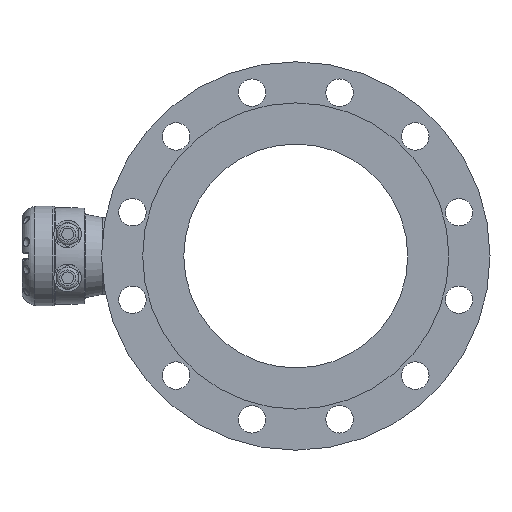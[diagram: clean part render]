
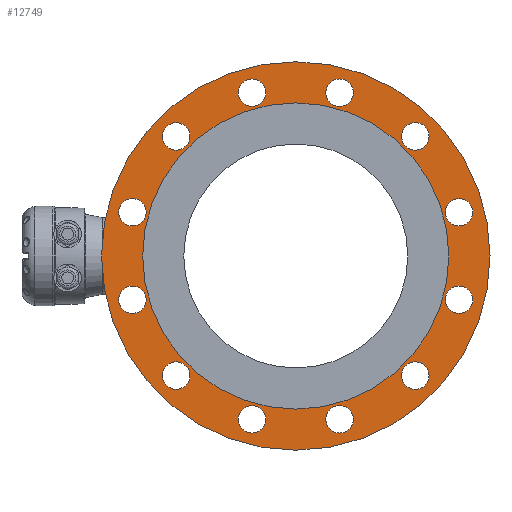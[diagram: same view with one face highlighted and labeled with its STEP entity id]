
A CAD part, left-side view. The second image highlights one B-rep face of the part: STEP entity #12749.
In plain terms, the highlighted planar face has unit normal (-1, 0, 0).
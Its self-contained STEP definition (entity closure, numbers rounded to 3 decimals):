
#60 = EDGE_CURVE ( 'NONE', #6598, #6598, #14289, .T. ) ;
#61 = EDGE_CURVE ( 'NONE', #6600, #6600, #14290, .T. ) ;
#83 = EDGE_CURVE ( 'NONE', #6637, #6637, #14312, .T. ) ;
#85 = EDGE_CURVE ( 'NONE', #6641, #6641, #3083, .T. ) ;
#99 = EDGE_CURVE ( 'NONE', #6659, #6659, #3100, .T. ) ;
#104 = EDGE_CURVE ( 'NONE', #6667, #6667, #3105, .T. ) ;
#111 = EDGE_CURVE ( 'NONE', #6679, #6679, #3112, .T. ) ;
#112 = EDGE_CURVE ( 'NONE', #6681, #6681, #3113, .T. ) ;
#113 = EDGE_CURVE ( 'NONE', #6684, #6684, #3115, .T. ) ;
#119 = EDGE_CURVE ( 'NONE', #2093, #2093, #3121, .T. ) ;
#120 = EDGE_CURVE ( 'NONE', #12383, #12383, #3122, .T. ) ;
#121 = EDGE_CURVE ( 'NONE', #12386, #12386, #3123, .T. ) ;
#126 = EDGE_CURVE ( 'NONE', #12394, #12394, #3130, .T. ) ;
#142 = EDGE_CURVE ( 'NONE', #12406, #12406, #3153, .T. ) ;
#216 = CARTESIAN_POINT ( 'NONE',  ( -189.805, -152.135, 168.154 ) ) ;
#218 = DIRECTION ( 'NONE',  ( -1., 0., 0. ) ) ;
#219 = CARTESIAN_POINT ( 'NONE',  ( -189.805, -378.713, 37.339 ) ) ;
#220 = DIRECTION ( 'NONE',  ( 0., 0., 1. ) ) ;
#221 = CARTESIAN_POINT ( 'NONE',  ( -189.805, -152.135, -189.239 ) ) ;
#253 = DIRECTION ( 'NONE',  ( -1., 0., 0. ) ) ;
#313 = DIRECTION ( 'NONE',  ( -1., 0., 0. ) ) ;
#340 = DIRECTION ( 'NONE',  ( -1., 0., 0. ) ) ;
#348 = CARTESIAN_POINT ( 'NONE',  ( -189.805, -200.017, -10.543 ) ) ;
#360 = DIRECTION ( 'NONE',  ( -1., 0., 0. ) ) ;
#367 = DIRECTION ( 'NONE',  ( -1., 0., 0. ) ) ;
#386 = DIRECTION ( 'NONE',  ( 0., 0., 1. ) ) ;
#395 = CARTESIAN_POINT ( 'NONE',  ( -189.805, -247.898, 168.154 ) ) ;
#414 = DIRECTION ( 'NONE',  ( 0., 0., 1. ) ) ;
#420 = DIRECTION ( 'NONE',  ( 0., 0., 1. ) ) ;
#517 = CARTESIAN_POINT ( 'NONE',  ( -189.805, -21.321, 37.339 ) ) ;
#652 = DIRECTION ( 'NONE',  ( 0., 0., 1. ) ) ;
#680 = DIRECTION ( 'NONE',  ( 1., 0., 0. ) ) ;
#820 = CARTESIAN_POINT ( 'NONE',  ( -189.805, -378.713, -58.424 ) ) ;
#924 = CARTESIAN_POINT ( 'NONE',  ( -189.805, -330.832, -141.358 ) ) ;
#927 = DIRECTION ( 'NONE',  ( -1., 0., 0. ) ) ;
#934 = DIRECTION ( 'NONE',  ( 0., 0., 1. ) ) ;
#962 = DIRECTION ( 'NONE',  ( -1., 0., 0. ) ) ;
#968 = DIRECTION ( 'NONE',  ( 0., 0., 1. ) ) ;
#985 = DIRECTION ( 'NONE',  ( 1., 0., 0. ) ) ;
#992 = DIRECTION ( 'NONE',  ( -1., 0., 0. ) ) ;
#1006 = DIRECTION ( 'NONE',  ( 0., 0., -1. ) ) ;
#1020 = DIRECTION ( 'NONE',  ( 0., 0., 1. ) ) ;
#1039 = CARTESIAN_POINT ( 'NONE',  ( -189.805, -21.321, -58.424 ) ) ;
#1041 = DIRECTION ( 'NONE',  ( 0., 0., 1. ) ) ;
#1128 = DIRECTION ( 'NONE',  ( 0., 0., 1. ) ) ;
#1174 = DIRECTION ( 'NONE',  ( -1., 0., 0. ) ) ;
#1193 = DIRECTION ( 'NONE',  ( 0., 0., 1. ) ) ;
#1207 = CARTESIAN_POINT ( 'NONE',  ( -189.805, -69.202, -141.358 ) ) ;
#1479 = CARTESIAN_POINT ( 'NONE',  ( -189.805, -69.202, 120.272 ) ) ;
#1575 = CARTESIAN_POINT ( 'NONE',  ( -189.805, -247.898, -189.239 ) ) ;
#1585 = DIRECTION ( 'NONE',  ( 0., 0., -1. ) ) ;
#1710 = DIRECTION ( 'NONE',  ( -1., 0., 0. ) ) ;
#1807 = CARTESIAN_POINT ( 'NONE',  ( -189.805, -330.832, 120.272 ) ) ;
#1867 = DIRECTION ( 'NONE',  ( -1., 0., 0. ) ) ;
#1876 = DIRECTION ( 'NONE',  ( 0., 0., 1. ) ) ;
#1922 = CARTESIAN_POINT ( 'NONE',  ( -189.805, -200.017, -10.543 ) ) ;
#2093 = VERTEX_POINT ( 'NONE', #2095 ) ;
#2095 = CARTESIAN_POINT ( 'NONE',  ( -189.805, -69.202, -126.358 ) ) ;
#3083 = CIRCLE ( 'NONE', #4424, 15. ) ;
#3100 = CIRCLE ( 'NONE', #4435, 15. ) ;
#3105 = CIRCLE ( 'NONE', #4414, 212.5 ) ;
#3112 = CIRCLE ( 'NONE', #4445, 15. ) ;
#3113 = CIRCLE ( 'NONE', #4446, 15. ) ;
#3115 = CIRCLE ( 'NONE', #4447, 15. ) ;
#3121 = CIRCLE ( 'NONE', #4452, 15. ) ;
#3122 = CIRCLE ( 'NONE', #4453, 15. ) ;
#3123 = CIRCLE ( 'NONE', #4454, 15. ) ;
#3130 = CIRCLE ( 'NONE', #4458, 15. ) ;
#3153 = CIRCLE ( 'NONE', #4461, 15. ) ;
#4397 = AXIS2_PLACEMENT_3D ( 'NONE', #1039, #313, #652 ) ;
#4404 = AXIS2_PLACEMENT_3D ( 'NONE', #1575, #1710, #1041 ) ;
#4414 = AXIS2_PLACEMENT_3D ( 'NONE', #1922, #680, #1585 ) ;
#4422 = AXIS2_PLACEMENT_3D ( 'NONE', #348, #985, #1006 ) ;
#4424 = AXIS2_PLACEMENT_3D ( 'NONE', #820, #1174, #1193 ) ;
#4435 = AXIS2_PLACEMENT_3D ( 'NONE', #1807, #1867, #1876 ) ;
#4445 = AXIS2_PLACEMENT_3D ( 'NONE', #219, #927, #934 ) ;
#4446 = AXIS2_PLACEMENT_3D ( 'NONE', #221, #962, #968 ) ;
#4447 = AXIS2_PLACEMENT_3D ( 'NONE', #924, #992, #1020 ) ;
#4452 = AXIS2_PLACEMENT_3D ( 'NONE', #1207, #360, #414 ) ;
#4453 = AXIS2_PLACEMENT_3D ( 'NONE', #1479, #367, #386 ) ;
#4454 = AXIS2_PLACEMENT_3D ( 'NONE', #517, #340, #420 ) ;
#4458 = AXIS2_PLACEMENT_3D ( 'NONE', #216, #253, #220 ) ;
#4461 = AXIS2_PLACEMENT_3D ( 'NONE', #395, #218, #1128 ) ;
#5023 = AXIS2_PLACEMENT_3D ( 'NONE', #9508, #9509, #9510 ) ;
#6598 = VERTEX_POINT ( 'NONE', #6599 ) ;
#6599 = CARTESIAN_POINT ( 'NONE',  ( -189.805, -21.321, -43.424 ) ) ;
#6600 = VERTEX_POINT ( 'NONE', #6601 ) ;
#6601 = CARTESIAN_POINT ( 'NONE',  ( -189.805, -247.898, -174.239 ) ) ;
#6637 = VERTEX_POINT ( 'NONE', #6638 ) ;
#6638 = CARTESIAN_POINT ( 'NONE',  ( -189.805, -200.017, -178.043 ) ) ;
#6641 = VERTEX_POINT ( 'NONE', #6642 ) ;
#6642 = CARTESIAN_POINT ( 'NONE',  ( -189.805, -378.713, -43.424 ) ) ;
#6659 = VERTEX_POINT ( 'NONE', #6660 ) ;
#6660 = CARTESIAN_POINT ( 'NONE',  ( -189.805, -330.832, 135.272 ) ) ;
#6667 = VERTEX_POINT ( 'NONE', #6668 ) ;
#6668 = CARTESIAN_POINT ( 'NONE',  ( -189.805, -200.017, -223.043 ) ) ;
#6679 = VERTEX_POINT ( 'NONE', #6680 ) ;
#6680 = CARTESIAN_POINT ( 'NONE',  ( -189.805, -378.713, 52.339 ) ) ;
#6681 = VERTEX_POINT ( 'NONE', #6683 ) ;
#6683 = CARTESIAN_POINT ( 'NONE',  ( -189.805, -152.135, -174.239 ) ) ;
#6684 = VERTEX_POINT ( 'NONE', #6685 ) ;
#6685 = CARTESIAN_POINT ( 'NONE',  ( -189.805, -330.832, -126.358 ) ) ;
#8222 = FACE_BOUND ( 'NONE', #12253, .T. ) ;
#8223 = FACE_BOUND ( 'NONE', #12202, .T. ) ;
#8227 = FACE_BOUND ( 'NONE', #11943, .T. ) ;
#8228 = FACE_BOUND ( 'NONE', #12255, .T. ) ;
#8229 = FACE_BOUND ( 'NONE', #11942, .T. ) ;
#8230 = FACE_BOUND ( 'NONE', #11955, .T. ) ;
#8231 = FACE_BOUND ( 'NONE', #12983, .T. ) ;
#8232 = FACE_BOUND ( 'NONE', #12254, .T. ) ;
#8233 = FACE_BOUND ( 'NONE', #12252, .T. ) ;
#8234 = FACE_BOUND ( 'NONE', #11976, .T. ) ;
#8235 = FACE_BOUND ( 'NONE', #11983, .T. ) ;
#8236 = FACE_BOUND ( 'NONE', #12256, .T. ) ;
#8237 = FACE_OUTER_BOUND ( 'NONE', #12045, .T. ) ;
#8238 = FACE_BOUND ( 'NONE', #12268, .T. ) ;
#9504 = PLANE ( 'NONE',  #5023 ) ;
#9508 = CARTESIAN_POINT ( 'NONE',  ( -189.805, -200.017, -10.543 ) ) ;
#9509 = DIRECTION ( 'NONE',  ( -1., 0., 0. ) ) ;
#9510 = DIRECTION ( 'NONE',  ( 0., 0., -1. ) ) ;
#11942 = EDGE_LOOP ( 'NONE', ( #14167 ) ) ;
#11943 = EDGE_LOOP ( 'NONE', ( #14170 ) ) ;
#11955 = EDGE_LOOP ( 'NONE', ( #14172 ) ) ;
#11976 = EDGE_LOOP ( 'NONE', ( #14174 ) ) ;
#11983 = EDGE_LOOP ( 'NONE', ( #14176 ) ) ;
#12045 = EDGE_LOOP ( 'NONE', ( #14178 ) ) ;
#12202 = EDGE_LOOP ( 'NONE', ( #14166 ) ) ;
#12252 = EDGE_LOOP ( 'NONE', ( #14169 ) ) ;
#12253 = EDGE_LOOP ( 'NONE', ( #14171 ) ) ;
#12254 = EDGE_LOOP ( 'NONE', ( #14173 ) ) ;
#12255 = EDGE_LOOP ( 'NONE', ( #14175 ) ) ;
#12256 = EDGE_LOOP ( 'NONE', ( #14177 ) ) ;
#12268 = EDGE_LOOP ( 'NONE', ( #14179 ) ) ;
#12383 = VERTEX_POINT ( 'NONE', #12384 ) ;
#12384 = CARTESIAN_POINT ( 'NONE',  ( -189.805, -69.202, 135.272 ) ) ;
#12386 = VERTEX_POINT ( 'NONE', #12387 ) ;
#12387 = CARTESIAN_POINT ( 'NONE',  ( -189.805, -21.321, 52.339 ) ) ;
#12394 = VERTEX_POINT ( 'NONE', #12395 ) ;
#12395 = CARTESIAN_POINT ( 'NONE',  ( -189.805, -152.135, 183.154 ) ) ;
#12406 = VERTEX_POINT ( 'NONE', #12407 ) ;
#12407 = CARTESIAN_POINT ( 'NONE',  ( -189.805, -247.898, 183.154 ) ) ;
#12749 = ADVANCED_FACE ( 'NONE', ( #8223, #8229, #8231, #8233, #8227, #8222, #8230, #8232, #8234, #8228, #8235, #8236, #8237, #8238 ), #9504, .T. ) ;
#12983 = EDGE_LOOP ( 'NONE', ( #14168 ) ) ;
#14166 = ORIENTED_EDGE ( 'NONE', *, *, #121, .F. ) ;
#14167 = ORIENTED_EDGE ( 'NONE', *, *, #120, .F. ) ;
#14168 = ORIENTED_EDGE ( 'NONE', *, *, #126, .F. ) ;
#14169 = ORIENTED_EDGE ( 'NONE', *, *, #142, .F. ) ;
#14170 = ORIENTED_EDGE ( 'NONE', *, *, #99, .F. ) ;
#14171 = ORIENTED_EDGE ( 'NONE', *, *, #111, .F. ) ;
#14172 = ORIENTED_EDGE ( 'NONE', *, *, #85, .F. ) ;
#14173 = ORIENTED_EDGE ( 'NONE', *, *, #113, .F. ) ;
#14174 = ORIENTED_EDGE ( 'NONE', *, *, #61, .F. ) ;
#14175 = ORIENTED_EDGE ( 'NONE', *, *, #112, .F. ) ;
#14176 = ORIENTED_EDGE ( 'NONE', *, *, #119, .F. ) ;
#14177 = ORIENTED_EDGE ( 'NONE', *, *, #60, .F. ) ;
#14178 = ORIENTED_EDGE ( 'NONE', *, *, #104, .F. ) ;
#14179 = ORIENTED_EDGE ( 'NONE', *, *, #83, .T. ) ;
#14289 = CIRCLE ( 'NONE', #4397, 15. ) ;
#14290 = CIRCLE ( 'NONE', #4404, 15. ) ;
#14312 = CIRCLE ( 'NONE', #4422, 167.5 ) ;
